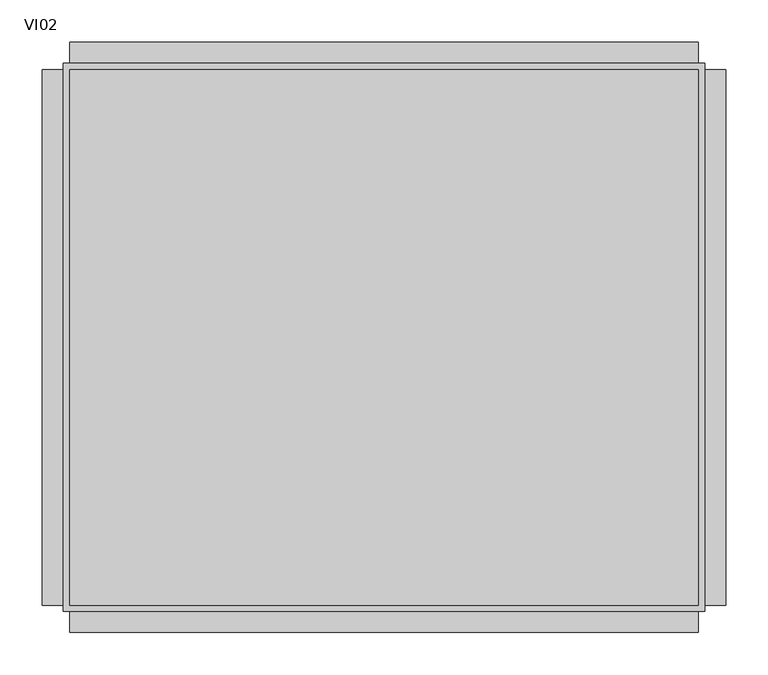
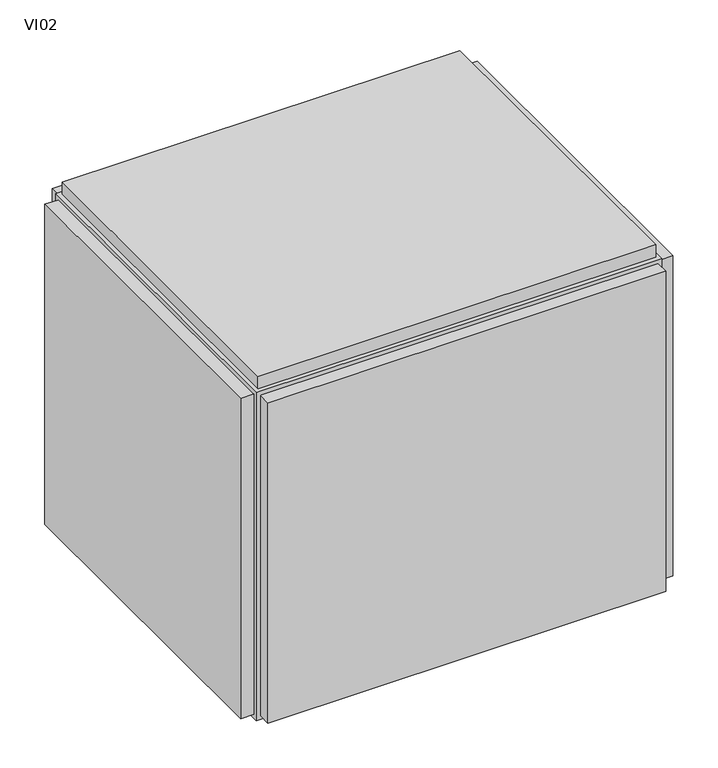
"""IFC4 building model written with IfcOpenShell, lengths in millimetres: proxy geometry, ZYR_03.06.01 Ventilador Caixa Aportació : VI02."""

from ifc_helpers import new_model, si_unit, frame, origin, origin_with_axes, place, context, project, spatial, polyline, outline, extrude, source, transform, mapped, element, save


def vi02_c8633e75(model_context):
    return source(origin(), model_context, "Body", "SweptSolid", [
        extrude(outline(polyline([(380.0, 325.0), (380.0, -325.0), (-380.0, -325.0), (-380.0, 325.0), (380.0, 325.0)])), origin_with_axes(), (0.0, 0.0, 1.0), 650.0),
        extrude(outline(polyline([(405.0, 317.5), (405.0, -317.5), (380.0, -317.5), (380.0, 317.5), (405.0, 317.5)])), frame((0.0, 0.0, 7.5), z_axis=(0.0, 0.0, 1.0), x_axis=(1.0, 0.0, 0.0)), (0.0, 0.0, 1.0), 635.0),
        extrude(outline(polyline([(-380.0, 317.5), (-380.0, -317.5), (-405.0, -317.5), (-405.0, 317.5), (-380.0, 317.5)])), frame((0.0, 0.0, 7.5), z_axis=(0.0, 0.0, 1.0), x_axis=(1.0, 0.0, 0.0)), (0.0, 0.0, 1.0), 635.0),
        extrude(outline(polyline([(372.5, -350.0), (-372.5, -350.0), (-372.5, -325.0), (372.5, -325.0), (372.5, -350.0)])), frame((0.0, 0.0, 7.5), z_axis=(0.0, 0.0, 1.0), x_axis=(1.0, 0.0, 0.0)), (0.0, 0.0, 1.0), 635.0),
        extrude(outline(polyline([(372.5, 325.0), (-372.5, 325.0), (-372.5, 350.0), (372.5, 350.0), (372.5, 325.0)])), frame((0.0, 0.0, 7.5), z_axis=(0.0, 0.0, 1.0), x_axis=(1.0, 0.0, 0.0)), (0.0, 0.0, 1.0), 635.0),
        extrude(outline(polyline([(372.5, 317.5), (372.5, -317.5), (-372.5, -317.5), (-372.5, 317.5), (372.5, 317.5)])), frame((0.0, 0.0, 650.0), z_axis=(0.0, 0.0, 1.0), x_axis=(1.0, 0.0, 0.0)), (0.0, 0.0, 1.0), 25.0),
    ])


if __name__ == "__main__":
    model = new_model("IFC4")
    model_context = context("Model", 3, world=origin())
    ifc_project = project(units=[si_unit("LENGTHUNIT", "METRE", prefix="MILLI")], contexts=[model_context])
    site = spatial("IfcSite", under=ifc_project)
    building = spatial("IfcBuilding", under=site)
    placement = place(None, origin())
    vi02_shape = vi02_c8633e75(model_context)
    element("IfcBuildingElementProxy", 1, Name="ZYR_03.06.01 Ventilador Caixa Aportació : VI02", ObjectType="ZYR_03.06.01 Ventilador Caixa Aportació : VI02", at=placement, inside=building, context=model_context, shape_type="MappedRepresentation", body=[
        mapped(vi02_shape, transform((0.0, 0.0, 0.0), x_axis=(1.0, 0.0, 0.0), y_axis=(0.0, 1.0, 0.0), z_axis=(0.0, 0.0, 1.0))),
    ])
    save(model, "model.ifc")
